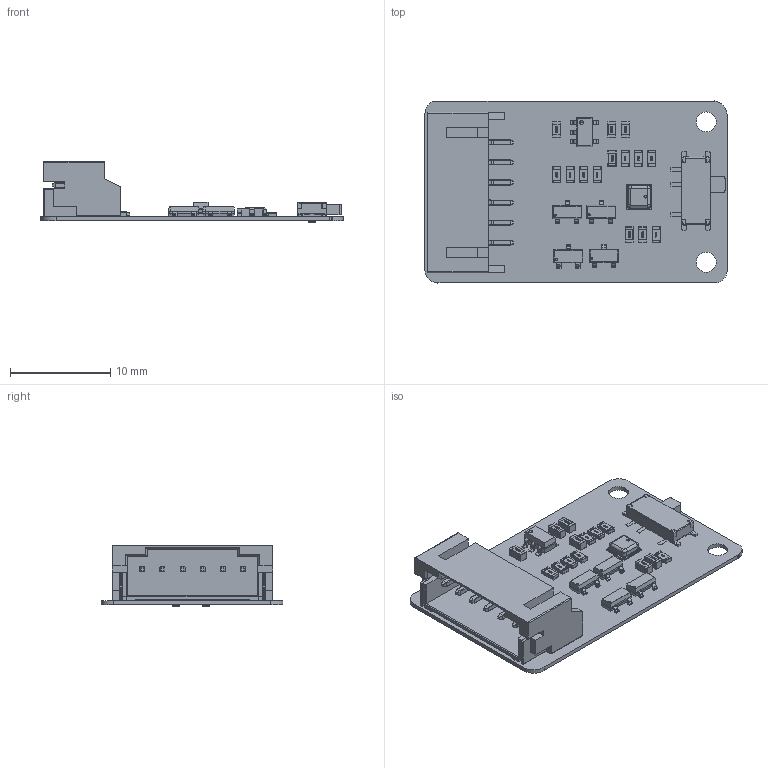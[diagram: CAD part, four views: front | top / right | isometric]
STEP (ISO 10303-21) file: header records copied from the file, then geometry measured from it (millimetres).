
FILE_DESCRIPTION(('Open CASCADE Model'),'2;1');
FILE_NAME('Open CASCADE Shape Model','2026-05-14T08:33:48',('Author'),( 'Open CASCADE'),'Open CASCADE STEP processor 6.8','Open CASCADE 6.8' ,'Unknown');
FILE_SCHEMA(('AUTOMOTIVE_DESIGN { 1 0 10303 214 1 1 1 1 }'));
Length unit declared in the file: millimetre
Products named in the file (44): PCB; Board; Open CASCADE STEP translator 6.8 1.1.1; C4; C_0603; LOGO?; R8; R_0603; R7; R5; R1; C8; C7; C1; C2; C3; P1; PH2_0-6PWB; Designator8; PH2.0_SMD-W-6P; PH2_0_SMD-W-6P-10863_AF0_ASM; PH2_0_SMD-W__1_2_30002; PH2_0_SMD-W-6P-5891_AF0_ASM; 3_1_2_3_400; 2_1_2_3_400; 1_1_2_3_4_A; R2; R3; R4; R6; U1; SOT23-5-2; U3; BME280-1; Q1; SOT23-3; Q2; Q3; Q4; SW1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
Assembly tree (63 placements, depth 8):
  PCB
    Board
      Open CASCADE STEP translator 6.8 1.1.1
    C4
      C_0603
        LOGO?
        C_0603
    R8
      R_0603
        R_0603
        LOGO?
    R7
      R_0603
        R_0603
        LOGO?
    R5
      R_0603
        R_0603
        LOGO?
    R1
      R_0603
        R_0603
        LOGO?
    C8
      C_0603
        LOGO?
        C_0603
    C7
      C_0603
        LOGO?
        C_0603
    C1
      C_0603
        LOGO?
        C_0603
    C2
      C_0603
        LOGO?
        C_0603
    C3
      C_0603
        LOGO?
        C_0603
    P1
      PH2_0-6PWB
        Designator8
          PH2.0_SMD-W-6P
            PH2_0_SMD-W-6P-10863_AF0_ASM
              PH2_0_SMD-W__1_2_30002  x6
              PH2_0_SMD-W-6P-5891_AF0_ASM
                3_1_2_3_400
                2_1_2_3_400
                1_1_2_3_4_A
    R2
      R_0603
        R_0603
        LOGO?
    R3
      R_0603
        R_0603
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Bounding box: 30.15 x 18.17 x 6.05 mm (x, y, z)
Volume: 503.8 mm3; surface area: 2295.6 mm2
Topology: 256 solids, 256 shells, 4251 faces, 10424 edges, 6793 vertices
Faces by surface type: plane 2375, bspline 1075, cylinder 687, torus 56, sphere 54, revolution 4
Full cylindrical faces by diameter (mm): 0.9 x2, 2 x2
Entity records: 55215 total; most frequent: CARTESIAN_POINT 15081, ORIENTED_EDGE 7082, DIRECTION 5920, EDGE_CURVE 3541, LINE 2672, VECTOR 2672, VERTEX_POINT 2307, AXIS2_PLACEMENT_3D 1622
